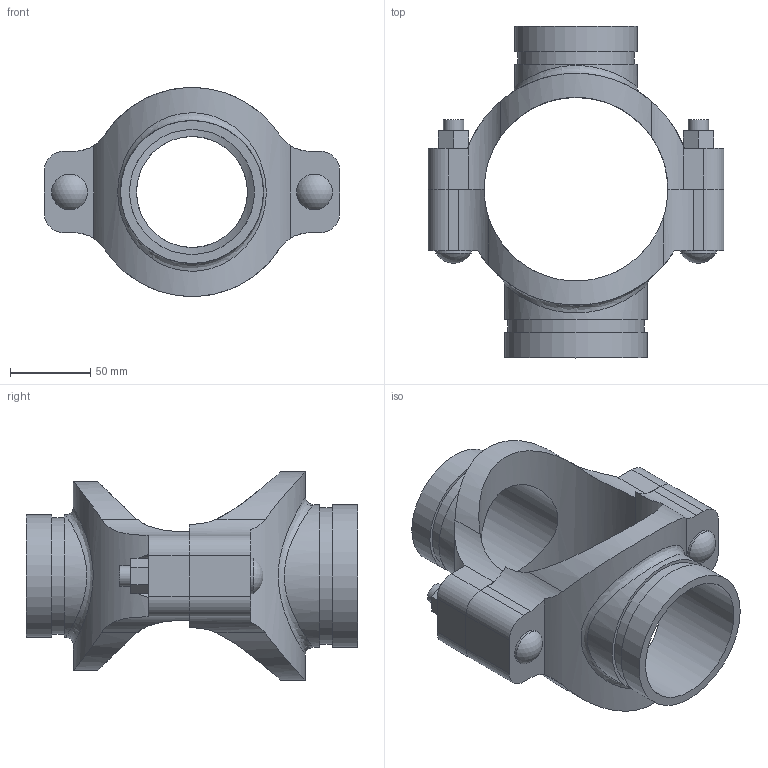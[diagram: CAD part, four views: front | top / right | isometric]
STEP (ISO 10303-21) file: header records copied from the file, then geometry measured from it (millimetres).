
FILE_DESCRIPTION(/* description */ ('VIC MECH-T BRANCH OUTLET CROSS STYLE 920N (GRVD)','CAx-IF Rec.Pracs.---Representation and Presentation of Product Manufacturing Information (PMI)---4.0---2014-10-13'),/* implementation_level */ '2;1');
FILE_NAME(/* name */ 'C:\Users\Vjadhav\AppData\Roaming\Autodesk\ApplicationPlugins\Back Up\Victaulic_IPS_Mechanical-Cross Outlet_Style 920N (OGS)\Victaulic_IPS_Mechanical-Cross Outlet_04.0x02.5 (76.1)x03.0 (100x65x80).stp',/* time_stamp */ '2020-08-06T19:43:59+05:00',/* author */ ('Vjadhav'),/* organization */ ('Victaulic'),/* preprocessor_version */ 'ST-DEVELOPER v17.2',/* originating_system */ 'Autodesk Inventor 2019',/* authorisation */ '');
FILE_SCHEMA (('AP242_MANAGED_MODEL_BASED_3D_ENGINEERING_MIM_LF { 1 0 10303 442 1 1 4 }'));
Length unit declared in the file: inch
Products named in the file (3): 920NG-04.0x02.5 (76.1)x03.0; 920G-04.0x02.5 (76.1)x03.0; 920G-04.0x03.0
Assembly tree (2 placements, depth 2):
  920NG-04.0x02.5 (76.1)x03.0
    920G-04.0x02.5 (76.1)x03.0
    920G-04.0x03.0
Bounding box: 184.15 x 206.5 x 129.9 mm (x, y, z)
Volume: 599652.6 mm3; surface area: 142401.8 mm2
Topology: 2 solids, 2 shells, 106 faces, 268 edges, 182 vertices
Faces by surface type: plane 54, cylinder 48, sphere 2, bspline 2
Full cylindrical faces by diameter (mm): 12.7 x4, 22.225 x2, 68.986 x1, 72.263 x1, 76.2 x2, 77.787 x1, 84.938 x1, 88.9 x2
Entity records: 4338 total; most frequent: CARTESIAN_POINT 1511, DIRECTION 542, ORIENTED_EDGE 536, EDGE_CURVE 268, AXIS2_PLACEMENT_3D 197, VERTEX_POINT 182, LINE 148, VECTOR 148
